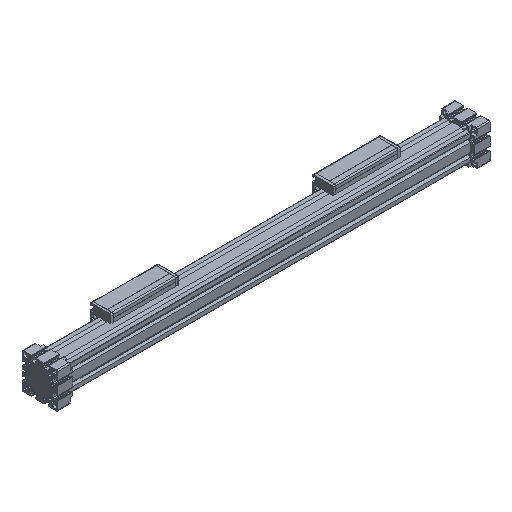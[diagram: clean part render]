
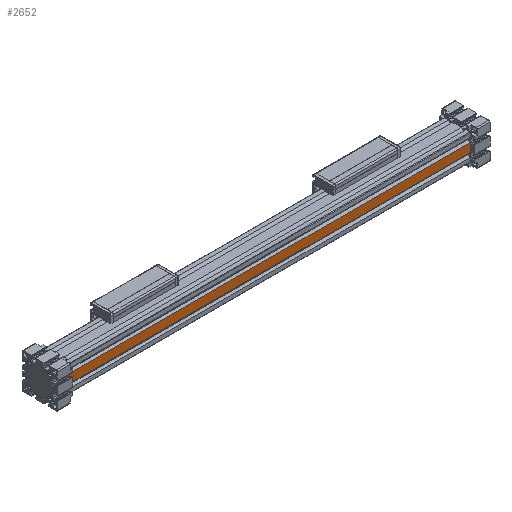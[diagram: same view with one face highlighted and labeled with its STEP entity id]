
A CAD part, isometric view. The second image highlights one B-rep face of the part: STEP entity #2652.
In plain terms, the highlighted planar face has unit normal (0, -1, 0).
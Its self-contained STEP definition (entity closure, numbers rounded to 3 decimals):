
#341 = CARTESIAN_POINT ( 'NONE',  ( 0., -30., 10. ) ) ;
#2652 = ADVANCED_FACE ( 'NONE', ( #8086 ), #5033, .F. ) ;
#2787 = CARTESIAN_POINT ( 'NONE',  ( 930., -30., -10. ) ) ;
#2900 = EDGE_LOOP ( 'NONE', ( #11111, #3117, #17283, #25351 ) ) ;
#3117 = ORIENTED_EDGE ( 'NONE', *, *, #4919, .F. ) ;
#4910 = VERTEX_POINT ( 'NONE', #28890 ) ;
#4919 = EDGE_CURVE ( 'NONE', #7964, #29055, #24449, .T. ) ;
#5033 = PLANE ( 'NONE',  #31578 ) ;
#5529 = EDGE_CURVE ( 'NONE', #13854, #29055, #13989, .T. ) ;
#7118 = VECTOR ( 'NONE', #18434, 1000. ) ;
#7651 = DIRECTION ( 'NONE',  ( 0., 0., 1. ) ) ;
#7791 = CARTESIAN_POINT ( 'NONE',  ( 930., -30., 10. ) ) ;
#7964 = VERTEX_POINT ( 'NONE', #2787 ) ;
#8086 = FACE_OUTER_BOUND ( 'NONE', #2900, .T. ) ;
#8436 = DIRECTION ( 'NONE',  ( 0., 0., -1. ) ) ;
#9309 = CARTESIAN_POINT ( 'NONE',  ( 0., -30., 10. ) ) ;
#11111 = ORIENTED_EDGE ( 'NONE', *, *, #5529, .T. ) ;
#11999 = LINE ( 'NONE', #7791, #31766 ) ;
#13503 = CARTESIAN_POINT ( 'NONE',  ( 930., -30., -10. ) ) ;
#13854 = VERTEX_POINT ( 'NONE', #9309 ) ;
#13989 = LINE ( 'NONE', #341, #7118 ) ;
#16053 = DIRECTION ( 'NONE',  ( -1., 0., 0. ) ) ;
#17283 = ORIENTED_EDGE ( 'NONE', *, *, #24635, .F. ) ;
#17901 = CARTESIAN_POINT ( 'NONE',  ( 930., -30., 10. ) ) ;
#18434 = DIRECTION ( 'NONE',  ( 0., 0., -1. ) ) ;
#20376 = EDGE_CURVE ( 'NONE', #4910, #13854, #11999, .T. ) ;
#22503 = LINE ( 'NONE', #26517, #29317 ) ;
#24449 = LINE ( 'NONE', #13503, #30467 ) ;
#24635 = EDGE_CURVE ( 'NONE', #4910, #7964, #22503, .T. ) ;
#24713 = CARTESIAN_POINT ( 'NONE',  ( 0., -30., -10. ) ) ;
#25351 = ORIENTED_EDGE ( 'NONE', *, *, #20376, .T. ) ;
#25838 = DIRECTION ( 'NONE',  ( -1., 0., 0. ) ) ;
#26517 = CARTESIAN_POINT ( 'NONE',  ( 930., -30., 10. ) ) ;
#28890 = CARTESIAN_POINT ( 'NONE',  ( 930., -30., 10. ) ) ;
#29055 = VERTEX_POINT ( 'NONE', #24713 ) ;
#29317 = VECTOR ( 'NONE', #8436, 1000. ) ;
#30467 = VECTOR ( 'NONE', #16053, 1000. ) ;
#31578 = AXIS2_PLACEMENT_3D ( 'NONE', #17901, #33343, #7651 ) ;
#31766 = VECTOR ( 'NONE', #25838, 1000. ) ;
#33343 = DIRECTION ( 'NONE',  ( 0., 1., 0. ) ) ;
